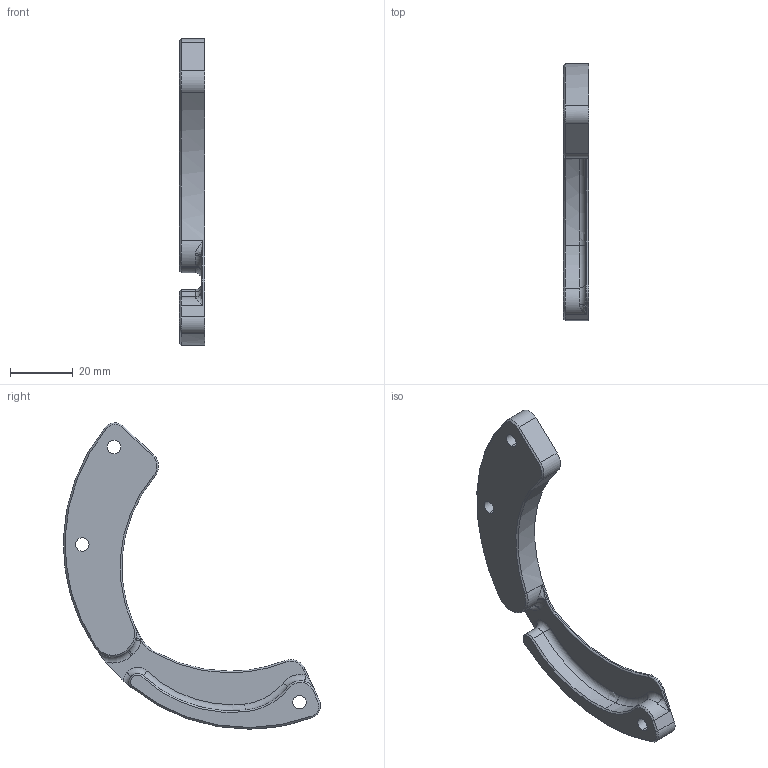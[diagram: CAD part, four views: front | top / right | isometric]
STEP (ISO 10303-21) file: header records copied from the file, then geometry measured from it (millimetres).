
FILE_DESCRIPTION((''),'2;1');
FILE_NAME('KD-D-104L_L_HIP_YOKE_HAR-5149_1','2025-07-14T08:49:51',('Administrator'),(''),'CREO PARAMETRIC BY PTC INC, 2022073','CREO PARAMETRIC BY PTC INC, 2022073','');
FILE_SCHEMA(('CONFIG_CONTROL_DESIGN'));
Length unit declared in the file: millimetre
Products named in the file (1): KD-D-104L_L_HIP_YOKE_HAR-5149_1
Bounding box: 8 x 82.1 x 97.86 mm (x, y, z)
Volume: 14068.7 mm3; surface area: 7668.7 mm2
Topology: 1 solids, 1 shells, 92 faces, 238 edges, 151 vertices
Faces by surface type: cylinder 33, plane 26, cone 19, torus 11, bspline 3
Entity records: 2969 total; most frequent: CARTESIAN_POINT 598, DIRECTION 528, ORIENTED_EDGE 472, EDGE_CURVE 236, AXIS2_PLACEMENT_3D 213, VERTEX_POINT 151, CIRCLE 124, EDGE_LOOP 103
